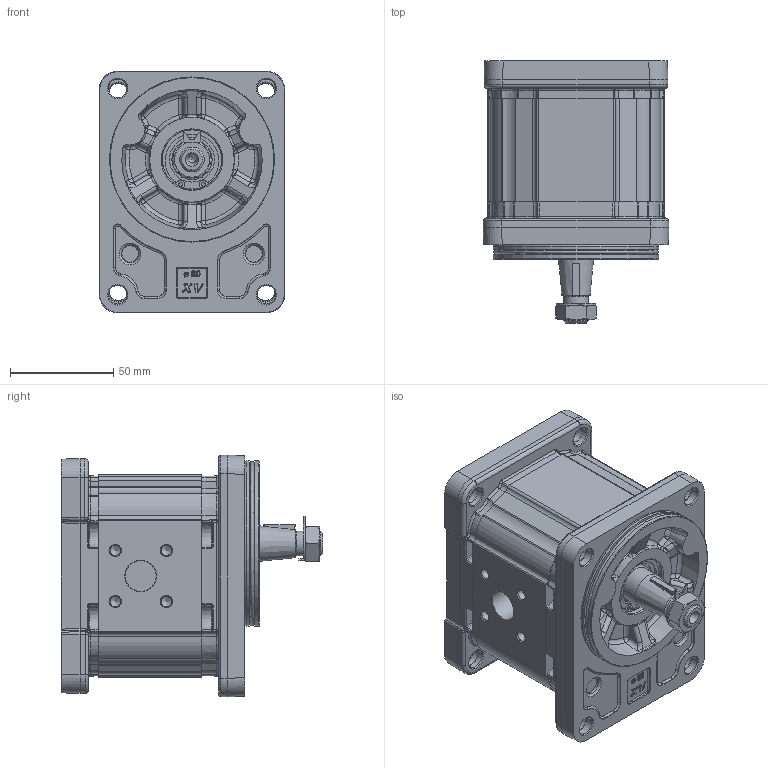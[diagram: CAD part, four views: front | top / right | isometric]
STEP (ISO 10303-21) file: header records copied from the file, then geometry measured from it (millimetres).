
FILE_DESCRIPTION(/* description */ ('Unknown'),/* implementation_level */ '2;1');
FILE_NAME(/* name */ 'X2T4341FSRA',/* time_stamp */ '2026-06-03T18:48:08+02:00',/* author */ ('Unknown'),/* organization */ ('Unknown'),/* preprocessor_version */ 'ST-DEVELOPER v16.7',/* originating_system */ 'Solid Edge',/* authorisation */ 'Unknown');
FILE_SCHEMA (('AUTOMOTIVE_DESIGN {1 0 10303 214 3 1 1}'));
Products named in the file (5): X2T4341FSRA; X2T41; 2F; X2SRH50; XT217-A
Assembly tree (4 placements, depth 2):
  X2T4341FSRA
    X2T41
    2F
    X2SRH50
    XT217-A
Bounding box: 89.99 x 126.85 x 116.99 mm (x, y, z)
Volume: 691076.6 mm3; surface area: 125390.7 mm2
Topology: 5 solids, 9 shells, 2436 faces, 6995 edges, 4210 vertices
Faces by surface type: cylinder 742, plane 658, bspline 421, torus 289, cone 273, sphere 53
Full cylindrical faces by diameter (mm): 2 x2, 3.973 x2, 5 x8, 8.376 x2, 8.5 x2, 8.796 x4, 8.798 x4, 9 x12, 9.99 x4, 10 x6, 10.5 x16, 12 x2, 12.5 x2, 15 x1, 15.8 x4, 16 x4, 17.42 x2, 17.48 x2, 18.724 x1, 20 x1, 20.595 x1, 21.741 x1, 25 x2, 25.834 x1, 28.56 x1, 28.57 x1, 28.8 x1, 30.5 x1, 32.5 x1, 36.5 x1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
Entity records: 119768 total; most frequent: CARTESIAN_POINT 43032, ORIENTED_EDGE 12962, DIRECTION 12020, EDGE_CURVE 6481, AXIS2_PLACEMENT_3D 4952, VERTEX_POINT 4072, FACE_BOUND 2879, EDGE_LOOP 2868
